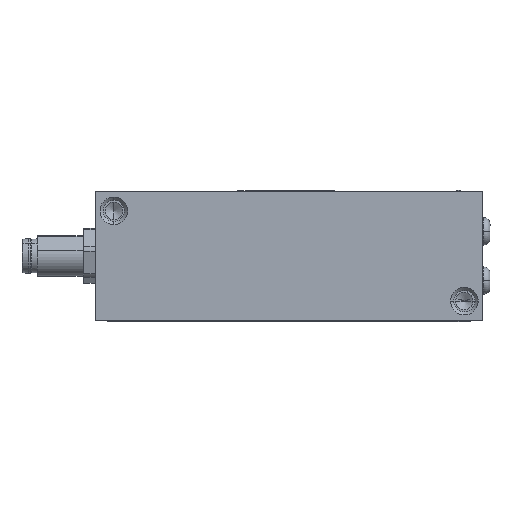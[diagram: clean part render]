
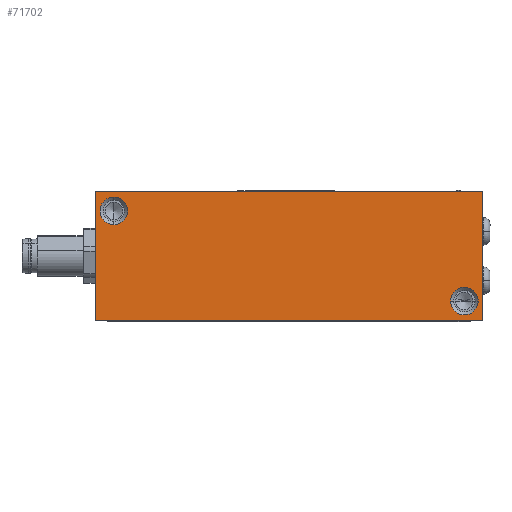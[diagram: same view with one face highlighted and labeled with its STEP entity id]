
A CAD part, front view. The second image highlights one B-rep face of the part: STEP entity #71702.
In plain terms, the highlighted planar face has unit normal (0, -1, 0).
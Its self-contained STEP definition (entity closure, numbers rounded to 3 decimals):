
#1053 = AXIS2_PLACEMENT_3D ( 'NONE', #93529, #62190, #137545 ) ;
#2458 = CARTESIAN_POINT ( 'NONE',  ( 3.556, -10.414, 6.172 ) ) ;
#2981 = EDGE_LOOP ( 'NONE', ( #44900, #45935 ) ) ;
#4202 = EDGE_CURVE ( 'NONE', #80128, #62764, #90106, .T. ) ;
#5454 = CARTESIAN_POINT ( 'NONE',  ( 3.556, -10.414, 8.89 ) ) ;
#6219 = CARTESIAN_POINT ( 'NONE',  ( 72.644, -10.414, -8.89 ) ) ;
#7550 = DIRECTION ( 'NONE',  ( 0., 0., -1. ) ) ;
#8067 = CARTESIAN_POINT ( 'NONE',  ( 3.556, -10.414, 8.89 ) ) ;
#9273 = EDGE_LOOP ( 'NONE', ( #50459, #47930 ) ) ;
#9425 = LINE ( 'NONE', #129458, #92920 ) ;
#16034 = FACE_BOUND ( 'NONE', #2981, .T. ) ;
#18066 = EDGE_LOOP ( 'NONE', ( #73230, #92534, #136270, #83344 ) ) ;
#22963 = EDGE_CURVE ( 'NONE', #43025, #62764, #9425, .T. ) ;
#26970 = CARTESIAN_POINT ( 'NONE',  ( 0., -10.414, 12.7 ) ) ;
#27549 = AXIS2_PLACEMENT_3D ( 'NONE', #121166, #35231, #59323 ) ;
#30746 = DIRECTION ( 'NONE',  ( 0., 0., -1. ) ) ;
#35231 = DIRECTION ( 'NONE',  ( 0., -1., 0. ) ) ;
#35455 = EDGE_CURVE ( 'NONE', #81081, #88617, #81311, .T. ) ;
#35491 = VECTOR ( 'NONE', #77345, 1000. ) ;
#36494 = CARTESIAN_POINT ( 'NONE',  ( 76.2, -10.414, 12.7 ) ) ;
#38307 = DIRECTION ( 'NONE',  ( 1., 0., 0. ) ) ;
#38386 = CARTESIAN_POINT ( 'NONE',  ( 75.362, -10.414, -8.89 ) ) ;
#43025 = VERTEX_POINT ( 'NONE', #36494 ) ;
#44900 = ORIENTED_EDGE ( 'NONE', *, *, #104031, .F. ) ;
#45274 = EDGE_CURVE ( 'NONE', #45327, #43025, #93000, .T. ) ;
#45327 = VERTEX_POINT ( 'NONE', #26970 ) ;
#45872 = FACE_OUTER_BOUND ( 'NONE', #18066, .T. ) ;
#45935 = ORIENTED_EDGE ( 'NONE', *, *, #73853, .F. ) ;
#47930 = ORIENTED_EDGE ( 'NONE', *, *, #131487, .F. ) ;
#48922 = CARTESIAN_POINT ( 'NONE',  ( 49.53, -10.414, 12.7 ) ) ;
#50459 = ORIENTED_EDGE ( 'NONE', *, *, #35455, .F. ) ;
#51351 = DIRECTION ( 'NONE',  ( 0., 0., -1. ) ) ;
#58302 = VECTOR ( 'NONE', #38307, 1000. ) ;
#59323 = DIRECTION ( 'NONE',  ( -1., 0., 0. ) ) ;
#60134 = DIRECTION ( 'NONE',  ( -1., 0., 0. ) ) ;
#61548 = DIRECTION ( 'NONE',  ( 0., -1., 0. ) ) ;
#62190 = DIRECTION ( 'NONE',  ( 0., -1., 0. ) ) ;
#62764 = VERTEX_POINT ( 'NONE', #65582 ) ;
#65582 = CARTESIAN_POINT ( 'NONE',  ( 76.2, -10.414, -12.7 ) ) ;
#69024 = CIRCLE ( 'NONE', #1053, 2.718 ) ;
#69033 = VERTEX_POINT ( 'NONE', #38386 ) ;
#69443 = CARTESIAN_POINT ( 'NONE',  ( 49.53, -10.414, -12.7 ) ) ;
#71702 = ADVANCED_FACE ( 'NONE', ( #16034, #45872, #89222 ), #123288, .T. ) ;
#73230 = ORIENTED_EDGE ( 'NONE', *, *, #22963, .F. ) ;
#73853 = EDGE_CURVE ( 'NONE', #69033, #90696, #87835, .T. ) ;
#77345 = DIRECTION ( 'NONE',  ( 1., 0., 0. ) ) ;
#78385 = CARTESIAN_POINT ( 'NONE',  ( 0., -10.414, -12.7 ) ) ;
#80128 = VERTEX_POINT ( 'NONE', #78385 ) ;
#81081 = VERTEX_POINT ( 'NONE', #2458 ) ;
#81311 = CIRCLE ( 'NONE', #133423, 2.718 ) ;
#83137 = CARTESIAN_POINT ( 'NONE',  ( 69.926, -10.414, -8.89 ) ) ;
#83344 = ORIENTED_EDGE ( 'NONE', *, *, #4202, .T. ) ;
#87530 = CARTESIAN_POINT ( 'NONE',  ( 3.556, -10.414, 11.608 ) ) ;
#87835 = CIRCLE ( 'NONE', #96932, 2.718 ) ;
#88617 = VERTEX_POINT ( 'NONE', #87530 ) ;
#89222 = FACE_BOUND ( 'NONE', #9273, .T. ) ;
#90106 = LINE ( 'NONE', #69443, #35491 ) ;
#90696 = VERTEX_POINT ( 'NONE', #83137 ) ;
#92534 = ORIENTED_EDGE ( 'NONE', *, *, #45274, .F. ) ;
#92920 = VECTOR ( 'NONE', #30746, 1000. ) ;
#93000 = LINE ( 'NONE', #48922, #58302 ) ;
#93340 = DIRECTION ( 'NONE',  ( 0., -1., 0. ) ) ;
#93529 = CARTESIAN_POINT ( 'NONE',  ( 72.644, -10.414, -8.89 ) ) ;
#96932 = AXIS2_PLACEMENT_3D ( 'NONE', #6219, #61548, #60134 ) ;
#104031 = EDGE_CURVE ( 'NONE', #90696, #69033, #69024, .T. ) ;
#106366 = CARTESIAN_POINT ( 'NONE',  ( 0., -10.414, 12.7 ) ) ;
#107209 = AXIS2_PLACEMENT_3D ( 'NONE', #8067, #93340, #51351 ) ;
#114750 = DIRECTION ( 'NONE',  ( 0., -1., 0. ) ) ;
#116339 = LINE ( 'NONE', #106366, #129263 ) ;
#121166 = CARTESIAN_POINT ( 'NONE',  ( 49.53, -10.414, -12.7 ) ) ;
#123288 = PLANE ( 'NONE',  #27549 ) ;
#123320 = EDGE_CURVE ( 'NONE', #45327, #80128, #116339, .T. ) ;
#129263 = VECTOR ( 'NONE', #130493, 1000. ) ;
#129458 = CARTESIAN_POINT ( 'NONE',  ( 76.2, -10.414, -12.7 ) ) ;
#130493 = DIRECTION ( 'NONE',  ( 0., 0., -1. ) ) ;
#131487 = EDGE_CURVE ( 'NONE', #88617, #81081, #132181, .T. ) ;
#132181 = CIRCLE ( 'NONE', #107209, 2.718 ) ;
#133423 = AXIS2_PLACEMENT_3D ( 'NONE', #5454, #114750, #7550 ) ;
#136270 = ORIENTED_EDGE ( 'NONE', *, *, #123320, .T. ) ;
#137545 = DIRECTION ( 'NONE',  ( -1., 0., 0. ) ) ;
